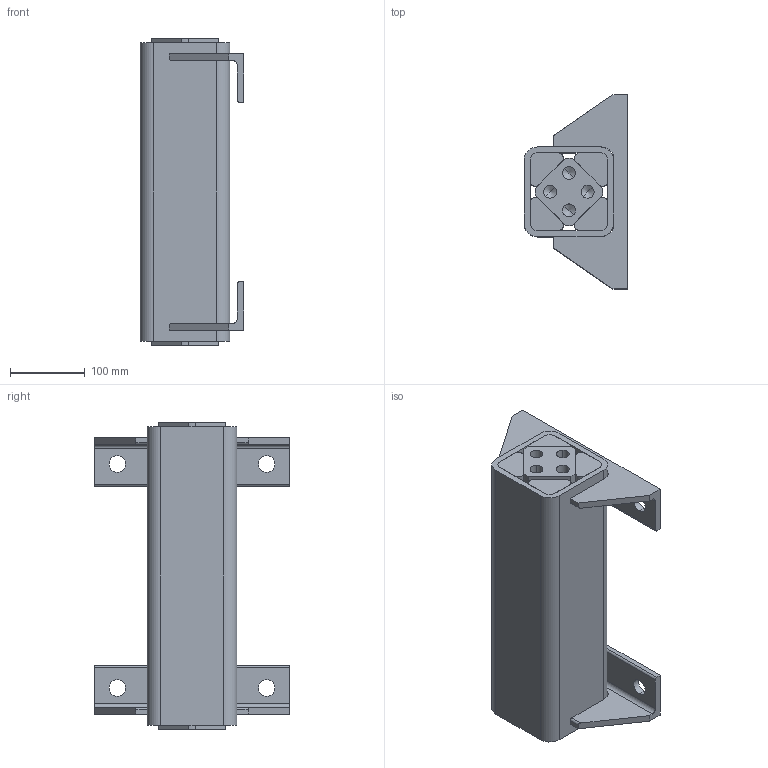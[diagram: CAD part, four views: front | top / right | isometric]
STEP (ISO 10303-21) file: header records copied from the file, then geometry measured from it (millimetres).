
FILE_DESCRIPTION((''),'2;1');
FILE_NAME('D:\ROSTA\Gummifederelemente\3D\DW-A70x400_01101006.stp','2005-02-11T04:13:29',('Administrator'),(''),'Autodesk Inventor 8','Autodesk Inventor 8','');
FILE_SCHEMA(('AUTOMOTIVE_DESIGN { 1 0 10303 214 1 1 1 1 }'));
Length unit declared in the file: millimetre
Products named in the file (5): Baugruppe6; 2.4.4812-011; 2.4.4812-012; 2.4.4812-013; 2.4.4812-014
Assembly tree (8 placements, depth 2):
  Baugruppe6
    2.4.4812-011
    2.4.4812-012
    2.4.4812-013  x2
    2.4.4812-014  x4
Bounding box: 139 x 260 x 410 mm (x, y, z)
Volume: 5868303.4 mm3; surface area: 847739.4 mm2
Topology: 8 solids, 8 shells, 140 faces, 356 edges, 224 vertices
Faces by surface type: plane 64, cylinder 44, bspline 32
Entity records: 3272 total; most frequent: CARTESIAN_POINT 1013, DIRECTION 448, ORIENTED_EDGE 440, EDGE_CURVE 220, AXIS2_PLACEMENT_3D 155, VERTEX_POINT 144, VECTOR 138, LINE 138
